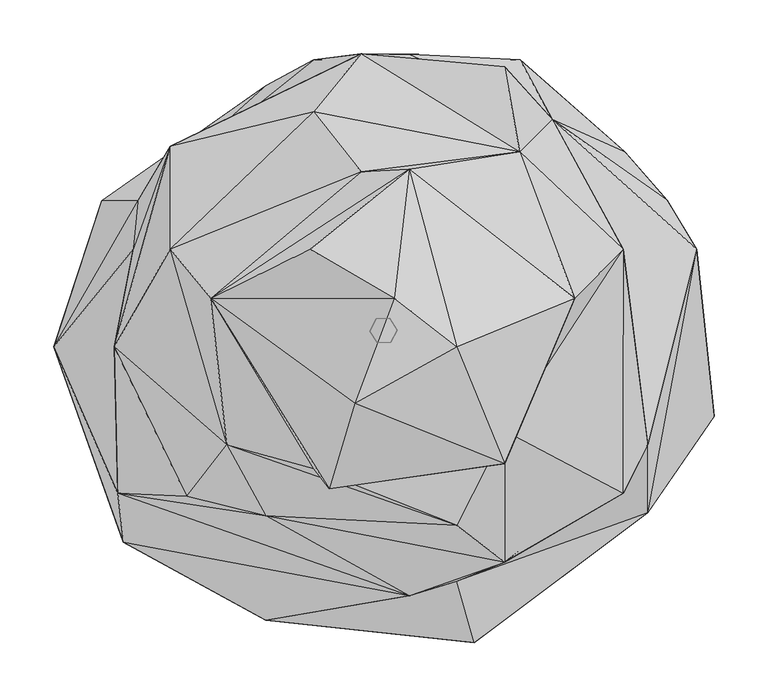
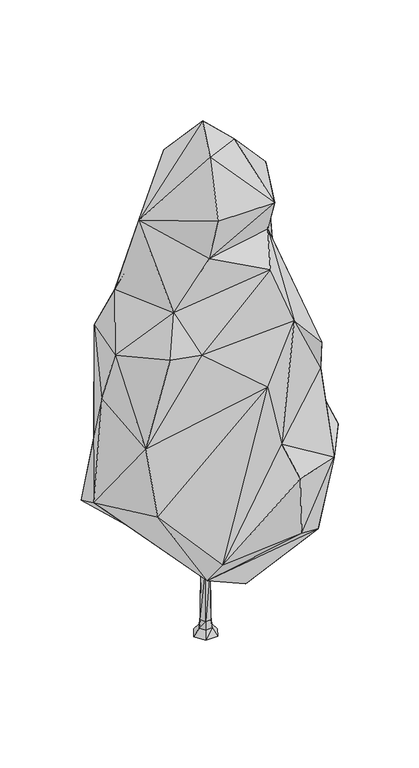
"""IFC4 building model written with IfcOpenShell, lengths in millimetres: geographic element geometry, Enscape AssetDefinition - Coniferous Tree 015 Spruce : Enscape AssetDefinition - Coniferous Tree 015 Spruce 4."""

from ifc_helpers import new_model, si_unit, origin, place, context, project, spatial, triangles, source, transform, mapped, element, save


def geographic_element_f48ce2c9(model_context):
    return source(origin(), model_context, "Body", "Tessellation", [
        triangles([(223.213174, -151.6106586, 812.12383), (112.9894514, -93.3605714, 1133.994227), (112.9894514, -215.3689217, 950.0682444), (68.6248764, -233.2192311, 628.1978474), (68.6248764, -181.4607443, 1088.0127314), (246.0830898, -106.2500099, 703.8873407), (223.0662171, 75.1927986, 950.0682444), (112.9894514, -123.9301535, 1225.9571457), (127.0940955, 165.9142005, 996.0498127), (178.3306302, 29.8321407, 1225.9571457), (-50.0388289, -147.3616447, 1245.0968204), (68.6248764, -15.5286045, 1356.3714237), (-26.3635639, -68.0872684, 1369.2277611), (10.3569362, 29.5721321, 1400.0000107), (-160.0500418, 29.8321407, 1179.9757227), (-64.4687575, -128.8828581, 1133.994227), (-144.9759346, -106.2500099, 996.0498127), (-182.1020388, -154.3886141, 904.3949421), (24.2603038, -246.6343825, 812.12383), (-108.8333279, -172.4346964, 904.0867487), (-249.3481885, -15.5286045, 858.105253), (-246.2598051, -151.6106586, 674.1792704), (-231.8740734, 75.1927986, 674.1792704), (-241.0014959, -196.9713892, 509.0784104), (84.8361825, -290.235155, 560.5161138), (-108.8333279, -269.376381, 371.1340324), (112.9894514, -249.1593192, 371.1340324), (-153.1978256, 75.1927986, 283.2575286), (-108.8333279, -196.9713892, 283.8242455), (10.1781862, -169.3035649, 216.9230965), (212.6781521, -151.6106586, 289.7530442), (264.1277188, 120.5535336, 536.234747), (307.7327425, -79.9452565, 509.4038993), (246.0830898, -169.5098386, 490.2532877), (291.3737846, 75.1927986, 628.1978474), (24.2603038, 256.6356797, 367.6677106), (68.6248764, 211.274931, 296.4342679), (127.5619267, 251.0930675, 524.7423162), (139.4830559, -21.5364761, 203.1273361), (224.6473343, 165.9142005, 371.1340324), (-64.4687575, 251.2188774, 582.2162427), (24.2603038, 256.1772048, 628.1978474), (157.3539309, 195.9820418, 766.1422617), (-20.1041826, 256.6356797, 782.8452393), (112.9894514, 244.8146534, 904.0867487), (-64.4687575, 202.8639437, 950.0682444), (-20.1041826, 147.2216551, 1133.994227), (-197.5623778, 170.7962063, 812.12383), (-108.8333279, 227.2190886, 417.1154918), (-227.4155338, 120.5535336, 536.234747), (-197.5623778, 75.1927986, 970.1479053), (24.2603038, 149.3797356, 1225.9571457), (-67.321613, 75.1927986, 1317.9202824), (-305.6967839, -15.5286045, 463.0969874), (-261.2543658, 120.5535336, 371.1340324), (9.3269368, -14.9330275, -0.6218411), (32.234674, 0.066893, -19.5494063), (7.298474, 11.9022736, 21.0993344), (17.6699437, 8.5e-05, -0.6218411), (16.6671433, -27.5129827, -19.5494063), (-7.7770082, -15.1742498, -0.6218411), (-15.0014497, -27.8211012, -19.5494063), (7.7163208, -12.1434108, 21.0993344), (14.4487967, 8.5e-05, 21.0993344), (13.3611689, 0.2132585, 169.8358907), (7.4936281, 9.4012249, 307.8040681), (12.3804693, -1.4194568, 307.8040681), (6.5699603, 11.0669185, 169.8358907), (-4.320759, 10.5794585, 307.8040681), (-12.2290887, -0.6957039, 169.8358907), (-6.2251259, 10.6124382, 169.8358907), (-6.5843245, 11.6609661, 21.0993344), (-11.2483879, 0.9370116, 307.8040681), (8.909089, 14.6918892, -0.6218411), (-13.3167153, -0.4824453, 21.0993344), (-5.4379652, -11.5493643, 169.8358907), (-6.3615468, -9.8836695, 307.8040681), (-16.5378634, -0.4824453, -0.6218411), (-6.1663927, -12.3846331, 21.0993344), (-8.194856, 14.4505805, -0.6218411), (16.1335299, 27.3386565, -19.5494063), (-15.5351482, 27.030538, -19.5494063), (-31.102596, -0.5493383, -19.5494063), (7.3572062, -11.0948828, 169.8358907), (5.4528393, -11.0619043, 307.8040681)], [[62, 61, 83], [85, 77, 76], [67, 85, 84], [76, 84, 85], [84, 76, 79], [61, 78, 83], [78, 61, 79], [83, 78, 82], [81, 74, 57], [78, 80, 82], [80, 74, 81], [82, 80, 81], [79, 75, 78], [75, 79, 76], [80, 78, 75], [77, 73, 70], [76, 70, 75], [70, 76, 77], [75, 72, 80], [72, 75, 70], [74, 80, 72], [72, 58, 74], [73, 69, 71], [70, 71, 72], [71, 70, 73], [58, 72, 71], [69, 66, 68], [71, 68, 58], [68, 71, 69], [66, 67, 65], [84, 65, 67], [65, 68, 66], [65, 84, 63], [63, 79, 61], [79, 63, 84], [68, 65, 64], [63, 64, 65], [64, 58, 68], [56, 61, 62], [64, 63, 56], [60, 56, 62], [61, 56, 63], [59, 56, 60], [74, 59, 57], [58, 64, 59], [57, 59, 60], [56, 59, 64], [59, 74, 58], [55, 49, 28], [54, 55, 28], [14, 53, 15], [53, 52, 15], [14, 52, 53], [15, 47, 51], [15, 52, 47], [51, 47, 46], [51, 46, 48], [23, 50, 54], [48, 50, 23], [55, 54, 50], [50, 49, 55], [50, 41, 49], [48, 44, 50], [44, 41, 50], [48, 46, 44], [47, 9, 46], [9, 45, 44], [47, 52, 9], [46, 9, 44], [44, 45, 43], [9, 43, 45], [44, 42, 41], [44, 43, 42], [42, 43, 38], [41, 42, 36], [41, 36, 49], [28, 49, 36], [42, 38, 36], [36, 37, 28], [28, 37, 39], [39, 37, 40], [38, 43, 40], [36, 40, 37], [40, 36, 38], [43, 35, 32], [43, 32, 40], [33, 32, 35], [35, 34, 33], [31, 32, 33], [33, 34, 31], [31, 39, 40], [32, 31, 40], [30, 28, 39], [31, 30, 39], [30, 31, 29], [29, 28, 30], [54, 28, 29], [34, 27, 31], [27, 29, 31], [34, 25, 27], [34, 4, 25], [26, 27, 25], [27, 26, 29], [4, 26, 25], [26, 24, 29], [24, 54, 29], [19, 26, 4], [19, 24, 26], [19, 22, 24], [22, 54, 24], [22, 23, 54], [21, 48, 23], [51, 48, 21], [21, 23, 22], [18, 21, 22], [22, 20, 18], [19, 20, 22], [18, 20, 17], [17, 15, 51], [17, 21, 18], [17, 51, 21], [5, 17, 20], [5, 16, 17], [16, 15, 17], [2, 16, 5], [16, 11, 15], [11, 13, 15], [13, 14, 15], [14, 12, 52], [12, 14, 13], [8, 13, 11], [8, 12, 13], [8, 16, 2], [8, 11, 16], [10, 8, 2], [52, 12, 10], [52, 10, 9], [8, 10, 12], [9, 10, 7], [10, 2, 7], [9, 7, 43], [43, 6, 35], [35, 6, 34], [43, 7, 6], [6, 4, 34], [7, 1, 6], [2, 1, 7], [3, 19, 4], [3, 20, 19], [1, 3, 6], [2, 5, 3], [3, 4, 6], [3, 5, 20], [3, 1, 2]], closed=False),
    ])


if __name__ == "__main__":
    model = new_model("IFC4")
    model_context = context("Model", 3, world=origin())
    ifc_project = project(units=[si_unit("LENGTHUNIT", "METRE", prefix="MILLI")], contexts=[model_context])
    site = spatial("IfcSite", under=ifc_project)
    building = spatial("IfcBuilding", under=site)
    placement = place(None, origin())
    geographic_element_shape = geographic_element_f48ce2c9(model_context)
    element("IfcGeographicElement", 1, ObjectType="Enscape AssetDefinition - Coniferous Tree 015 Spruce : Enscape AssetDefinition - Coniferous Tree 015 Spruce 4", at=placement, inside=building, context=model_context, shape_type="MappedRepresentation", body=[
        mapped(geographic_element_shape, transform((0.0, 0.0, 0.0), x_axis=(1.0, 0.0, 0.0), y_axis=(0.0, 1.0, 0.0), z_axis=(0.0, 0.0, 1.0))),
    ])
    save(model, "model.ifc")
